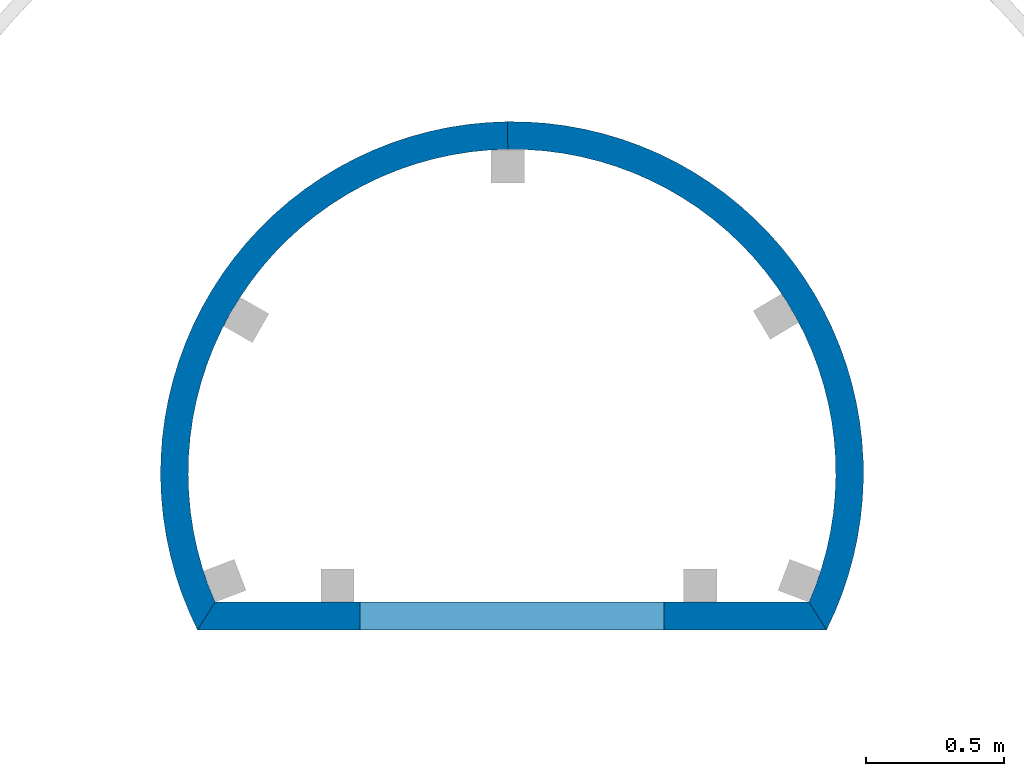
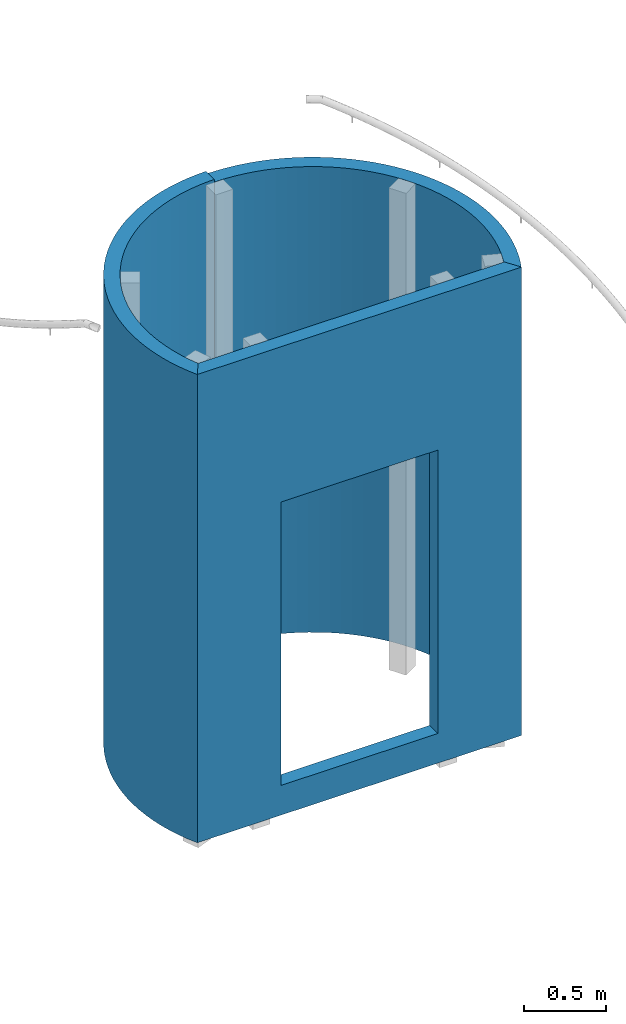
# One storey, part 2 of 7: 3 walls, 1 opening.
"""IFC4 building model written with IfcOpenShell, lengths in millimetres."""

import ifcopenshell
import ifcopenshell.guid

model = None  # the IFC model being written
_history = None  # IfcOwnerHistory: only IFC2X3 demands one
_inside = {}  # id of a spatial element -> (the spatial element, [elements in it])
_under = {}  # id of a project, library or spatial element -> (it, [spatial elements below it])
_declared = {}  # id of a project -> (the project, [libraries it declares])
_typed = {}  # id of a type object -> (the type object, [elements of that type])
_made_of = {}  # id of a material, layer set ... -> (it, [elements and type objects made of it])


def new_model(schema):
    """Start an empty IFC model of exactly this schema.

    Asked for "IFC4X3", IfcOpenShell would pick the latest addendum, in which some entities
    have other attributes; the version numbers below select the first issue.
    IFC2X3 requires an IfcOwnerHistory on every rooted entity: one is made here for all.
    """
    global model, _history
    if schema == "IFC4X3":
        model = ifcopenshell.file(schema_version=(4, 3, 0, 0))
    else:
        model = ifcopenshell.file(schema=schema)
    _inside.clear()
    _under.clear()
    _declared.clear()
    _typed.clear()
    _made_of.clear()
    _history = None
    if model.schema == "IFC2X3":
        org = make("IfcOrganization", Name="unknown")
        user = make(
            "IfcPersonAndOrganization",
            ThePerson=make("IfcPerson", FamilyName="unknown"),
            TheOrganization=org,
        )
        app = make(
            "IfcApplication",
            ApplicationDeveloper=org,
            Version="unknown",
            ApplicationFullName="unknown",
            ApplicationIdentifier="unknown",
        )
        _history = make(
            "IfcOwnerHistory",
            OwningUser=user,
            OwningApplication=app,
            ChangeAction="ADDED",
            CreationDate=0,
        )
    return model


def make(cls, **values):
    """One entity of the class cls with the attributes given. An attribute that is None is left unset."""
    return model.create_entity(
        cls, **{name: value for name, value in values.items() if value is not None}
    )


def entity(cls, *values):
    """Any entity or typed value of the class cls, its attributes in the order of the schema. None: left unset."""
    e = model.create_entity(cls)
    for i, value in enumerate(values):
        if value is not None:
            e[i] = value
    return e


def rooted(cls, **values):
    """An entity with a GlobalId (a new one), such as an element, a storey or a relation."""
    return make(cls, GlobalId=ifcopenshell.guid.new(), OwnerHistory=_history, **values)


def si_unit(unit_type, name, prefix=None):
    """IfcSIUnit, for example si_unit("LENGTHUNIT", "METRE", prefix="MILLI")."""
    return make("IfcSIUnit", UnitType=unit_type, Prefix=prefix, Name=name)


def converted_unit(unit_type, name, factor, base, dimensions=None, offset=None):
    """IfcConversionBasedUnit, such as the inch: factor (a typed value) times the base unit."""
    return make(
        "IfcConversionBasedUnit"
        if offset is None
        else "IfcConversionBasedUnitWithOffset",
        ConversionOffset=offset,
        Dimensions=None
        if dimensions is None
        else entity("IfcDimensionalExponents", *dimensions),
        UnitType=unit_type,
        Name=name,
        ConversionFactor=make(
            "IfcMeasureWithUnit", ValueComponent=factor, UnitComponent=base
        ),
    )


def derived_unit(unit_type, elements):
    """IfcDerivedUnit: a product of units, each with its exponent."""
    return make(
        "IfcDerivedUnit",
        Elements=[
            make("IfcDerivedUnitElement", Unit=unit, Exponent=power)
            for unit, power in elements
        ],
        UnitType=unit_type,
    )


def assignment(units):
    """IfcUnitAssignment: the units of a project."""
    return None if units is None else make("IfcUnitAssignment", Units=units)


def point(xyz):
    """IfcCartesianPoint."""
    return None if xyz is None else make("IfcCartesianPoint", Coordinates=xyz)


def direction(xyz):
    """IfcDirection."""
    return None if xyz is None else make("IfcDirection", DirectionRatios=xyz)


def frame(location, z_axis=None, x_axis=None):
    """IfcAxis2Placement3D, a coordinate frame: its origin and axes. An axis left out is left unset."""
    return make(
        "IfcAxis2Placement3D",
        Location=point(location),
        Axis=direction(z_axis),
        RefDirection=direction(x_axis),
    )


def frame_2d(location, x_axis=None):
    """IfcAxis2Placement2D, a coordinate frame in the plane: its origin and x axis."""
    return make(
        "IfcAxis2Placement2D", Location=point(location), RefDirection=direction(x_axis)
    )


def origin_with_axes():
    """The frame at (0, 0, 0) with the z axis (0, 0, 1) and the x axis (1, 0, 0) written out."""
    return frame((0.0, 0.0, 0.0), z_axis=(0.0, 0.0, 1.0), x_axis=(1.0, 0.0, 0.0))


def origin_2d_with_axis():
    """The frame at (0, 0) in the plane with the x axis (1, 0) written out."""
    return frame_2d((0.0, 0.0), x_axis=(1.0, 0.0))


def place(relative_to, where):
    """IfcLocalPlacement: puts the frame where relative to a parent placement (None: the world)."""
    return make(
        "IfcLocalPlacement", PlacementRelTo=relative_to, RelativePlacement=where
    )


def context(
    kind, dimensions, precision=None, world=None, true_north=None, identifier=None
):
    """IfcGeometricRepresentationContext, for example the 3D "Model" context."""
    return make(
        "IfcGeometricRepresentationContext",
        ContextIdentifier=identifier,
        ContextType=kind,
        CoordinateSpaceDimension=dimensions,
        Precision=precision,
        WorldCoordinateSystem=world,
        TrueNorth=true_north,
    )


def subcontext(parent, identifier, kind, view, scale=None):
    """IfcGeometricRepresentationSubContext, for example "Body" below "Model"."""
    return make(
        "IfcGeometricRepresentationSubContext",
        ContextIdentifier=identifier,
        ContextType=kind,
        ParentContext=parent,
        TargetScale=scale,
        TargetView=view,
    )


def project(units=None, contexts=None):
    """IfcProject with its units and contexts."""
    return rooted(
        "IfcProject",
        Name="project",
        RepresentationContexts=contexts,
        UnitsInContext=assignment(units),
    )


def spatial(cls, under=None, at=None, **own):
    """A site, building, storey or space (cls), placed at a placement, below another one or the project."""
    s = rooted(cls, ObjectPlacement=at, **own)
    if under is not None:
        _under.setdefault(under.id(), (under, []))[1].append(s)
    return s


def point_list(points):
    """IfcCartesianPointList2D or 3D."""
    cls = (
        "IfcCartesianPointList2D" if len(points[0]) == 2 else "IfcCartesianPointList3D"
    )
    return make(cls, CoordList=points)


def line(*indices):
    """IfcLineIndex: a straight run through numbered points of an indexed curve."""
    return model.create_entity("IfcLineIndex", indices)


def arc(*indices):
    """IfcArcIndex: an arc through three numbered points of an indexed curve."""
    return model.create_entity("IfcArcIndex", indices)


def indexed_curve(points, segments=None, self_intersect=None):
    """IfcIndexedPolyCurve: lines and arcs through numbered points (the first is 1)."""
    return make(
        "IfcIndexedPolyCurve",
        Points=point_list(points),
        Segments=segments,
        SelfIntersect=self_intersect,
    )


def profile(cls, at=None, kind="AREA", **sizes):
    """A parametric profile (cls). Its sizes go by their IFC names, for example OverallWidth=200.0."""
    return make(cls, ProfileType=kind, Position=at, **sizes)


def rectangle(**sizes):
    """IfcRectangleProfileDef."""
    return profile("IfcRectangleProfileDef", **sizes)


def outline(outer, holes=None, kind="AREA"):
    """IfcArbitraryClosedProfileDef: a profile drawn as a closed curve; with holes, ...WithVoids."""
    if holes is None:
        return make("IfcArbitraryClosedProfileDef", ProfileType=kind, OuterCurve=outer)
    return make(
        "IfcArbitraryProfileDefWithVoids",
        ProfileType=kind,
        OuterCurve=outer,
        InnerCurves=holes,
    )


def extrude(swept, where, along, depth):
    """IfcExtrudedAreaSolid: the profile swept, set in the frame where, extruded along a direction by depth."""
    return make(
        "IfcExtrudedAreaSolid",
        SweptArea=swept,
        Position=where,
        ExtrudedDirection=direction(along),
        Depth=depth,
    )


def shape(context_of_items, identifier, shape_type, items):
    """IfcShapeRepresentation: the items that make up one representation, for example the "Body"."""
    return make(
        "IfcShapeRepresentation",
        ContextOfItems=context_of_items,
        RepresentationIdentifier=identifier,
        RepresentationType=shape_type,
        Items=items,
    )


def material(Name=None, Category=None):
    """IfcMaterial."""
    return make("IfcMaterial", Name=Name, Category=Category)


def layer(
    of_material, thickness, ventilated=None, Name=None, Category=None, Priority=None
):
    """IfcMaterialLayer: one layer of a wall or slab, of a material (None: an air gap)."""
    return make(
        "IfcMaterialLayer",
        Material=of_material,
        LayerThickness=thickness,
        IsVentilated=ventilated,
        Name=Name,
        Category=Category,
        Priority=Priority,
    )


def layer_set(layers, Name=None):
    """IfcMaterialLayerSet."""
    return make("IfcMaterialLayerSet", MaterialLayers=layers, LayerSetName=Name)


def layer_usage(for_layer_set, set_direction, sense, offset, extent=None):
    """IfcMaterialLayerSetUsage: how a layer set lies in its element."""
    return make(
        "IfcMaterialLayerSetUsage",
        ForLayerSet=for_layer_set,
        LayerSetDirection=set_direction,
        DirectionSense=sense,
        OffsetFromReferenceLine=offset,
        ReferenceExtent=extent,
    )


def made_of(thing, what):
    """Note that an element or type object is made of a material, layer set ...; save() writes the relation."""
    if what is not None:
        _made_of.setdefault(what.id(), (what, []))[1].append(thing)
    return thing


def type_object(cls, material=None, **own):
    """A type object (cls), such as IfcWallType, which elements share."""
    return made_of(rooted(cls, **own), material)


def element(
    cls,
    number,
    at=None,
    inside=None,
    cuts=None,
    type_object=None,
    material=None,
    context=None,
    identifier="Body",
    shape_type=None,
    held_by="IfcProductDefinitionShape",
    body=None,
    shapes=None,
    **own,
):
    """One element of the class cls, such as IfcWall. Its Tag is "e" and its number.

    at: its placement. inside: the storey or other place that contains it. cuts: it is an
    opening in that element (IfcRelVoidsElement). A single representation is given by context,
    identifier, shape_type and body (its items); several are given by shapes. held_by: the class
    of the entity that holds the representations. save() writes the other relations.
    """
    e = rooted(cls, Tag="e%d" % number, ObjectPlacement=at, **own)
    if body is not None:
        shapes = [shape(context, identifier, shape_type, body)]
    if shapes is not None:
        e.Representation = make(held_by, Representations=shapes)
    if inside is not None:
        _inside.setdefault(inside.id(), (inside, []))[1].append(e)
    if cuts is not None:
        rooted(
            "IfcRelVoidsElement", RelatingBuildingElement=cuts, RelatedOpeningElement=e
        )
    if type_object is not None:
        _typed.setdefault(type_object.id(), (type_object, []))[1].append(e)
    return made_of(e, material)


def aggregate(whole, parts):
    """IfcRelAggregates: a whole, such as a stair, and the parts it consists of."""
    return rooted("IfcRelAggregates", RelatingObject=whole, RelatedObjects=parts)


def save(model, path):
    """Write the relations noted so far, then the file.

    IfcRelAggregates (storeys below a building ...), IfcRelContainedInSpatialStructure (elements
    in a storey), IfcRelDefinesByType, IfcRelAssociatesMaterial and IfcRelDeclares: one each for
    every whole, place, type object, material and project.
    """
    for whole, parts in _under.values():
        aggregate(whole, parts)
    for where, things in _inside.values():
        rooted(
            "IfcRelContainedInSpatialStructure",
            RelatedElements=things,
            RelatingStructure=where,
        )
    for kind, things in _typed.values():
        rooted("IfcRelDefinesByType", RelatedObjects=things, RelatingType=kind)
    for what, things in _made_of.values():
        rooted("IfcRelAssociatesMaterial", RelatedObjects=things, RelatingMaterial=what)
    for by, libraries in _declared.values():
        rooted("IfcRelDeclares", RelatingContext=by, RelatedDefinitions=libraries)
    model.write(path)


model = new_model("IFC4")

# Units and contexts
model_context = context("Model", 3, precision=0.01, world=origin_with_axes(), true_north=direction((0.0, 1.0)))
body_context = subcontext(model_context, "Body", "Model", "MODEL_VIEW")
ifc_project = project(units=[si_unit("LENGTHUNIT", "METRE", prefix="MILLI"), si_unit("AREAUNIT", "SQUARE_METRE"), si_unit("VOLUMEUNIT", "CUBIC_METRE"), converted_unit("PLANEANGLEUNIT", "DEGREE", entity("IfcPlaneAngleMeasure", 0.0174532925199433), si_unit("PLANEANGLEUNIT", "RADIAN"), dimensions=[0, 0, 0, 0, 0, 0, 0]), converted_unit("TIMEUNIT", "Year", entity("IfcTimeMeasure", 31557600.0), si_unit("TIMEUNIT", "SECOND"), dimensions=[0, 0, 1, 0, 0, 0, 0]), si_unit("MASSUNIT", "GRAM", prefix="KILO"), si_unit("THERMODYNAMICTEMPERATUREUNIT", "DEGREE_CELSIUS"), si_unit("LUMINOUSINTENSITYUNIT", "LUMEN"), si_unit("ENERGYUNIT", "JOULE", prefix="MEGA"), derived_unit("THERMALCONDUCTANCEUNIT", [(si_unit("POWERUNIT", "WATT"), 1), (si_unit("LENGTHUNIT", "METRE"), -1), (si_unit("THERMODYNAMICTEMPERATUREUNIT", "KELVIN"), -1)]), derived_unit("SPECIFICHEATCAPACITYUNIT", [(si_unit("ENERGYUNIT", "JOULE"), 1), (si_unit("MASSUNIT", "GRAM", prefix="KILO"), -1), (si_unit("THERMODYNAMICTEMPERATUREUNIT", "KELVIN"), -1)]), derived_unit("MASSDENSITYUNIT", [(si_unit("MASSUNIT", "GRAM", prefix="KILO"), 1), (si_unit("VOLUMEUNIT", "CUBIC_METRE"), -1)])], contexts=[model_context])

# Site, building, storey
site_placement = place(None, origin_with_axes())
site = spatial("IfcSite", under=ifc_project, at=site_placement, Name="Exteriér", CompositionType="ELEMENT")
building_placement = place(site_placement, origin_with_axes())
building = spatial("IfcBuilding", under=site, at=building_placement, Name="Univerzitní lezecké centrum", CompositionType="ELEMENT")
storey_placement = place(building_placement, frame((0.0, 0.0, -3350.0), z_axis=(0.0, 0.0, 1.0), x_axis=(1.0, 0.0, 0.0)))
storey = spatial("IfcBuildingStorey", under=building, at=storey_placement, Name="1.PP", CompositionType="ELEMENT", Elevation=-3350.0)

# Walls
ifc_material = material(Name="Sklo")
ifc_layer = layer(ifc_material, 100.0, ventilated="UNKNOWN", Name="Sklo")
ifc_layer_set = layer_set([ifc_layer], Name="Sklo 100")
ifc_layer_usage_1 = layer_usage(ifc_layer_set, "AXIS2", "NEGATIVE", 100.0)
wall_type = type_object("IfcWallType", Name="Sklo 100", PredefinedType="NOTDEFINED")
wall_1_placement = place(storey_placement, frame((2433.408922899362, 4969.893553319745, -220.0000000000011), z_axis=(0.0, 0.0, 1.0), x_axis=(-0.9999161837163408, -0.01294702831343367, 0.0)))
element("IfcWall", 1, at=wall_1_placement, inside=storey, type_object=wall_type, material=ifc_layer_usage_1, Name="Z053", PredefinedType="NOTDEFINED", context=body_context, shape_type="SweptSolid", body=[
    extrude(outline(indexed_curve([(0.0, 0.0), (1075.550169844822, 594.6542869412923), (1143.886923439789, 1821.745146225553), (1078.921478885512, 1722.579763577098), (974.2736585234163, 622.1644974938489), (0.0, 100.0000000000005)], segments=[arc(1, 2, 3), line(3, 4), arc(4, 5, 6), line(6, 1)])), origin_with_axes(), (0.0, 0.0, 1.0), 3470.0),
])
ifc_layer_usage_2 = layer_usage(ifc_layer_set, "AXIS2", "NEGATIVE", 100.0)
wall_2_placement = place(storey_placement, frame((3586.466856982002, 3133.426201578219, -220.0000000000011), z_axis=(0.0, 0.0, 1.0), x_axis=(0.4461211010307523, 0.8949726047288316, 0.0)))
element("IfcWall", 2, at=wall_2_placement, inside=storey, type_object=wall_type, material=ifc_layer_usage_2, Name="Z054", PredefinedType="NOTDEFINED", context=body_context, shape_type="SweptSolid", body=[
    extrude(outline(indexed_curve([(0.0, 0.0), (1084.222640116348, 608.6670530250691), (1129.184494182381, 1851.242099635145), (1040.272329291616, 1805.475005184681), (1014.422406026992, 687.0358653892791), (61.09418564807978, 101.5961740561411)], segments=[arc(1, 2, 3), line(3, 4), arc(4, 5, 6), line(6, 1)])), origin_with_axes(), (0.0, 0.0, 1.0), 3450.000000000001),
])

# Wall, opening
ifc_layer_usage_3 = layer_usage(ifc_layer_set, "AXIS2", "NEGATIVE", 100.0)
wall_3_placement = place(storey_placement, frame((1313.204061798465, 3133.491162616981, -220.0000000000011), z_axis=(0.0, 0.0, 1.0), x_axis=(0.9999999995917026, -2.857612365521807e-05, 0.0)))
wall_3 = element("IfcWall", 3, at=wall_3_placement, inside=storey, type_object=wall_type, material=ifc_layer_usage_3, Name="Z053", PredefinedType="NOTDEFINED", context=body_context, shape_type="SweptSolid", body=[
    extrude(outline(indexed_curve([(0.0, 0.0), (2273.262796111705, 0.0), (2209.589551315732, 99.99999999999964), (63.67324478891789, 100.0000000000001)], segments=[line(1, 2, 3, 4, 1)])), origin_with_axes(), (0.0, 0.0, 1.0), 3470.0),
])
opening_placement = place(wall_3_placement, frame((1136.631398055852, 0.0, 220.0000000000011), z_axis=(0.0, 0.0, 1.0), x_axis=(1.0, 0.0, 0.0)))
element("IfcOpeningElement", 4, at=opening_placement, cuts=wall_3, context=body_context, shape_type="SweptSolid", body=[
    extrude(rectangle(XDim=1097.999999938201, YDim=2100.0, at=origin_2d_with_axis()), frame((0.0, 99.99999999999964, 1050.0), z_axis=(0.0, 1.0, 0.0), x_axis=(-1.0, 0.0, 0.0)), (0.0, 0.0, -1.0), 300.0000000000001),
])

save(model, "model.ifc")
